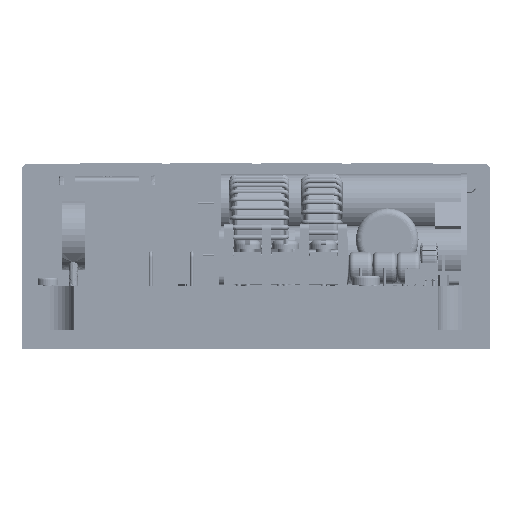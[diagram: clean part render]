
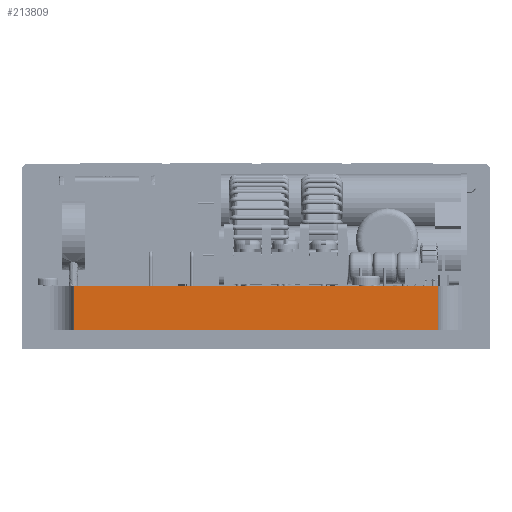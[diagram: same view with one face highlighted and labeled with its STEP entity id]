
A CAD part, left-side view. The second image highlights one B-rep face of the part: STEP entity #213809.
In plain terms, the highlighted planar face has unit normal (-1, 0, 0).
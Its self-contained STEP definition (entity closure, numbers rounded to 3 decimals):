
#212461=CARTESIAN_POINT('',(-2.121,407.802,125.418));
#212462=VERTEX_POINT('',#212461);
#212469=CARTESIAN_POINT('',(-2.121,328.902,125.418));
#212470=VERTEX_POINT('',#212469);
#212471=CARTESIAN_POINT('',(-2.121,328.902,125.418));
#212472=DIRECTION('',(0.0,1.0,0.0));
#212473=VECTOR('',#212472,78.9);
#212474=LINE('',#212471,#212473);
#212475=EDGE_CURVE('',#212470,#212462,#212474,.T.);
#212968=CARTESIAN_POINT('',(-2.121,328.902,115.868));
#212969=VERTEX_POINT('',#212968);
#212976=CARTESIAN_POINT('',(-2.121,407.802,115.868));
#212977=VERTEX_POINT('',#212976);
#212978=CARTESIAN_POINT('',(-2.121,328.902,115.868));
#212979=DIRECTION('',(0.0,1.0,0.0));
#212980=VECTOR('',#212979,78.9);
#212981=LINE('',#212978,#212980);
#212982=EDGE_CURVE('',#212969,#212977,#212981,.T.);
#213086=CARTESIAN_POINT('',(-2.121,328.902,115.868));
#213087=DIRECTION('',(0.0,0.0,1.0));
#213088=VECTOR('',#213087,9.55);
#213089=LINE('',#213086,#213088);
#213090=EDGE_CURVE('',#212969,#212470,#213089,.T.);
#213788=CARTESIAN_POINT('',(-2.121,407.802,115.868));
#213789=DIRECTION('',(0.0,0.0,1.0));
#213790=VECTOR('',#213789,9.55);
#213791=LINE('',#213788,#213790);
#213792=EDGE_CURVE('',#212977,#212462,#213791,.T.);
#213798=CARTESIAN_POINT('',(-2.121,328.902,116.368));
#213799=DIRECTION('',(-1.0,0.0,0.0));
#213800=DIRECTION('',(0.0,0.0,1.0));
#213801=AXIS2_PLACEMENT_3D('',#213798,#213799,#213800);
#213802=PLANE('',#213801);
#213803=ORIENTED_EDGE('',*,*,#213792,.F.);
#213804=ORIENTED_EDGE('',*,*,#212982,.F.);
#213805=ORIENTED_EDGE('',*,*,#213090,.T.);
#213806=ORIENTED_EDGE('',*,*,#212475,.T.);
#213807=EDGE_LOOP('',(#213803,#213804,#213805,#213806));
#213808=FACE_OUTER_BOUND('',#213807,.T.);
#213809=ADVANCED_FACE('',(#213808),#213802,.T.);
